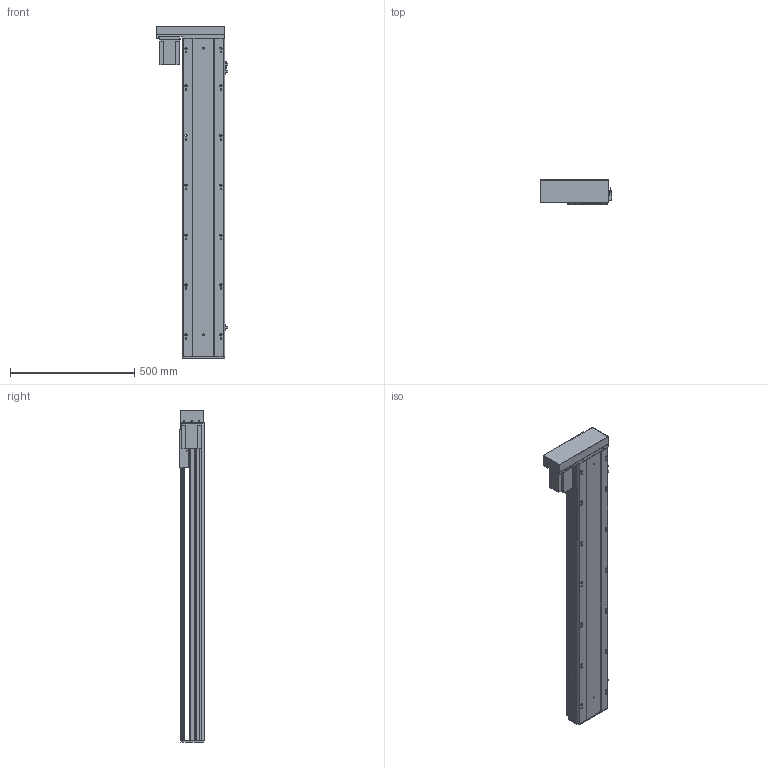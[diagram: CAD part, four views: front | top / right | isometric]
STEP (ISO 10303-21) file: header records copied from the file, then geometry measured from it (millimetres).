
FILE_DESCRIPTION (( 'STEP AP203' ), '1' );
FILE_NAME ('Y170-D10-S1050-BL-P750W.STEP', '2020-01-19T23:09:27', ( '微软用户' ), ( '微软中国' ), 'SwSTEP 2.0', 'SolidWorks 2017', '' );
FILE_SCHEMA (( 'CONFIG_CONTROL_DESIGN' ));
Length unit declared in the file: millimetre
Products named in the file (12): Y--BL蟀諉啣-陔遴-; Y100-135俋离換覜ん; Y170-D10-S1050-BL-P750W; 170--掛极-BR; Y170-BL-P750W楊擘啣; 侂狟750W; EGH20賑輸_蕼偞; Y雄赽釱-耜蚾; Y-BL.BR-俋欶; Y170耜裔--準---; Y170-陔遴奻裔-BR; YD-Y100-135-新外置传感挡片(通用）
Assembly tree (14 placements, depth 2):
  Y170-D10-S1050-BL-P750W
    Y170耜裔--準---
    YD-Y100-135-新外置传感挡片(通用）
    Y100-135俋离換覜ん  x3
    170--掛极-BR
    Y170-BL-P750W楊擘啣
    侂狟750W
    EGH20賑輸_蕼偞  x2
    Y雄赽釱-耜蚾
    Y-BL.BR-俋欶
    Y170-陔遴奻裔-BR
    Y--BL蟀諉啣-陔遴-
Bounding box: 289 x 97 x 1333.5 mm (x, y, z)
Volume: 6269664.1 mm3; surface area: 2177669.6 mm2
Topology: 14 solids, 14 shells, 933 faces, 2642 edges, 1744 vertices
Faces by surface type: cylinder 474, plane 443, cone 16
Entity records: 29690 total; most frequent: CARTESIAN_POINT 5302, DIRECTION 4908, ORIENTED_EDGE 4780, EDGE_CURVE 2390, AXIS2_PLACEMENT_3D 1746, VERTEX_POINT 1588, VECTOR 1416, LINE 1416
